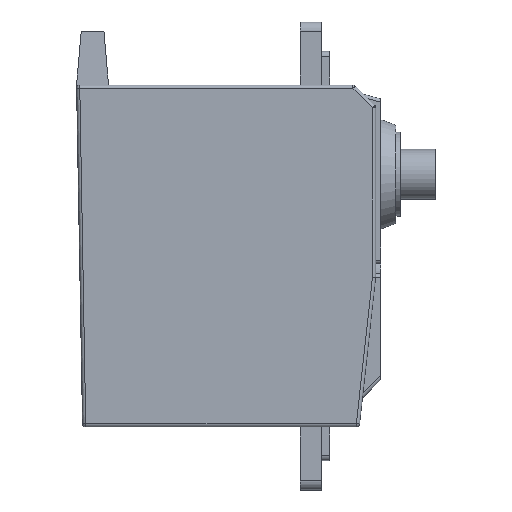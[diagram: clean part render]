
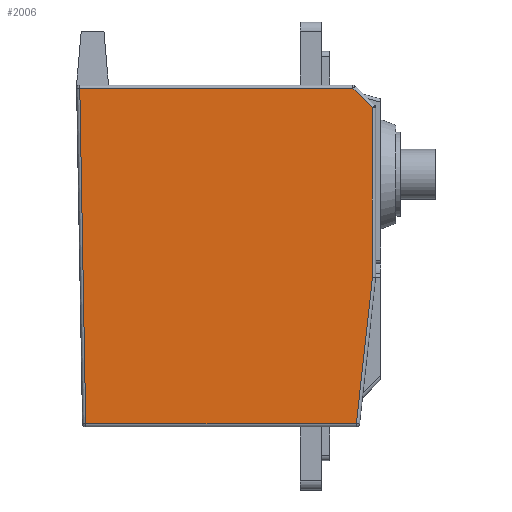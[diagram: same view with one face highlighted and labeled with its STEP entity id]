
A CAD part, left-side view. The second image highlights one B-rep face of the part: STEP entity #2006.
In plain terms, the highlighted planar face has unit normal (-1, 0, 0).
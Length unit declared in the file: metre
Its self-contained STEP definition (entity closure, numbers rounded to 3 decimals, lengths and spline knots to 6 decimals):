
#460=ORIENTED_EDGE('',*,*,#970,.T.);
#461=ORIENTED_EDGE('',*,*,#971,.T.);
#462=ORIENTED_EDGE('',*,*,#972,.T.);
#463=ORIENTED_EDGE('',*,*,#973,.T.);
#464=ORIENTED_EDGE('',*,*,#974,.T.);
#465=ORIENTED_EDGE('',*,*,#975,.T.);
#970=EDGE_CURVE('',#1222,#1223,#1407,.T.);
#971=EDGE_CURVE('',#1223,#1224,#1408,.T.);
#972=EDGE_CURVE('',#1224,#1225,#1409,.T.);
#973=EDGE_CURVE('',#1225,#1226,#1410,.T.);
#974=EDGE_CURVE('',#1226,#1227,#1411,.T.);
#975=EDGE_CURVE('',#1227,#1222,#1412,.T.);
#1222=VERTEX_POINT('',#3361);
#1223=VERTEX_POINT('',#3362);
#1224=VERTEX_POINT('',#3364);
#1225=VERTEX_POINT('',#3366);
#1226=VERTEX_POINT('',#3368);
#1227=VERTEX_POINT('',#3370);
#1407=LINE('',#3360,#1603);
#1408=LINE('',#3363,#1604);
#1409=LINE('',#3365,#1605);
#1410=LINE('',#3367,#1606);
#1411=LINE('',#3369,#1607);
#1412=LINE('',#3371,#1608);
#1603=VECTOR('',#2667,1.);
#1604=VECTOR('',#2668,1.);
#1605=VECTOR('',#2669,1.);
#1606=VECTOR('',#2670,1.);
#1607=VECTOR('',#2671,1.);
#1608=VECTOR('',#2672,1.);
#1699=EDGE_LOOP('',(#460,#461,#462,#463,#464,#465));
#1827=FACE_BOUND('',#1699,.T.);
#1941=PLANE('',#2201);
#2006=ADVANCED_FACE('',(#1827),#1941,.T.);
#2201=AXIS2_PLACEMENT_3D('',#3359,#2665,#2666);
#2665=DIRECTION('',(-1.,0.,0.));
#2666=DIRECTION('',(0.,0.,1.));
#2667=DIRECTION('',(0.,0.707,0.707));
#2668=DIRECTION('',(0.,1.,0.));
#2669=DIRECTION('',(0.,-0.018,-1.));
#2670=DIRECTION('',(0.,-1.,0.));
#2671=DIRECTION('',(0.,-0.109,0.994));
#2672=DIRECTION('',(0.,0.,1.));
#3359=CARTESIAN_POINT('',(-0.010033,0.003292,-0.016685));
#3360=CARTESIAN_POINT('',(-0.010033,0.00446,0.022044));
#3361=CARTESIAN_POINT('',(-0.010033,0.003302,0.020886));
#3362=CARTESIAN_POINT('',(-0.010033,0.005619,0.023203));
#3363=CARTESIAN_POINT('',(-0.010033,0.021856,0.023203));
#3364=CARTESIAN_POINT('',(-0.010033,0.038093,0.023203));
#3365=CARTESIAN_POINT('',(-0.010033,0.037742,0.003264));
#3366=CARTESIAN_POINT('',(-0.010033,0.03739,-0.016675));
#3367=CARTESIAN_POINT('',(-0.010033,0.021302,-0.016675));
#3368=CARTESIAN_POINT('',(-0.010033,0.005213,-0.016675));
#3369=CARTESIAN_POINT('',(-0.010033,0.004258,-0.007965));
#3370=CARTESIAN_POINT('',(-0.010033,0.003302,0.000745));
#3371=CARTESIAN_POINT('',(-0.010033,0.003302,0.010815));
